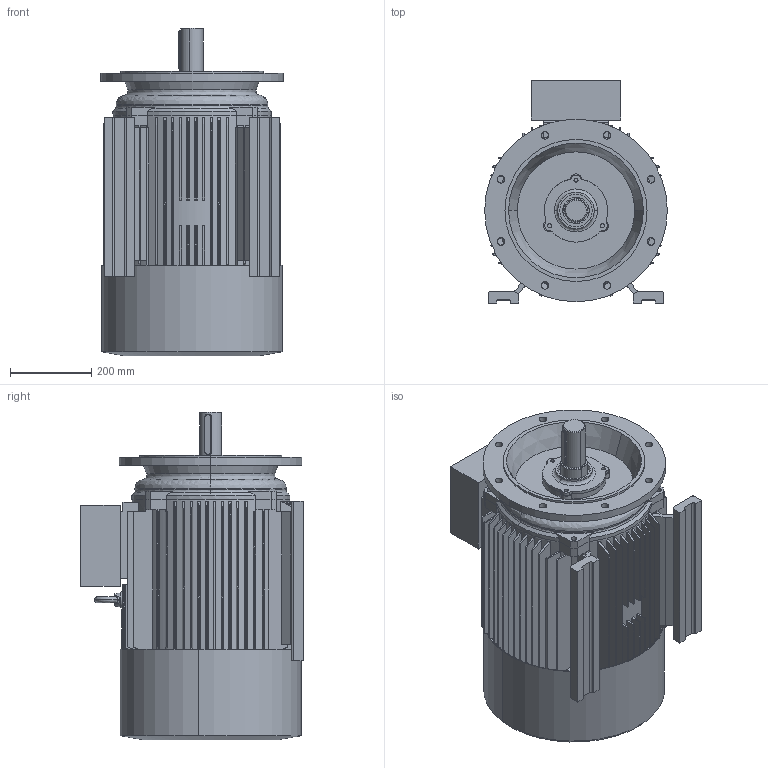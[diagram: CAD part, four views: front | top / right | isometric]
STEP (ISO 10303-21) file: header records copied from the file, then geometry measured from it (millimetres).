
FILE_DESCRIPTION (( 'STEP AP203' ), '1' );
FILE_NAME ('M3-225M-2p-FF-B35.STEP', '2019-07-08T14:05:17', ( '' ), ( '' ), 'SwSTEP 2.0', 'SolidWorks 2012', '' );
FILE_SCHEMA (( 'CONFIG_CONTROL_DESIGN' ));
Length unit declared in the file: millimetre
Products named in the file (10): Y2-225ﾀiﾍ_-ｼ+､; Y2-225MB3+ｷﾎｨ_-ｼ+､; Y2-200-4.6.8Ã¦Íß¦ð-Ô©Ã_-¼+¤; M3-225M-2p-FF-B35; 225-2ﾍﾟ+ｦｰ+ｳ_-ｼ+､; Plain parallel keys_GB_CONNECTING_PIECE_KEYS_CSK 16X100_1; 225M-2B35; 225-2ﾍﾟ+_-ｼ+､; Eyebolts GB_GB_FASTENER_SCREWS_FRS M16-N_3; 225-2-ｦﾈﾁ_-ｼ+､
Assembly tree (9 placements, depth 4):
  M3-225M-2p-FF-B35
    225M-2B35
      Y2-225MB3+ｷﾎｨ_-ｼ+､
      Y2-225ﾀiﾍ_-ｼ+､
      Y2-200-4.6.8Ã¦Íß¦ð-Ô©Ã_-¼+¤
      Eyebolts GB_GB_FASTENER_SCREWS_FRS M16-N_3
      225-2-ｦﾈﾁ_-ｼ+､
      225-2ﾍﾟ+ｦｰ+ｳ_-ｼ+､
        Plain parallel keys_GB_CONNECTING_PIECE_KEYS_CSK 16X100_1
        225-2ﾍﾟ+_-ｼ+､
Bounding box: 450 x 548 x 807.5 mm (x, y, z)
Volume: 20605115 mm3; surface area: 4087390.7 mm2
Topology: 8 solids, 8 shells, 814 faces, 2167 edges, 1425 vertices
Faces by surface type: plane 310, cylinder 282, cone 176, bspline 46
Entity records: 32513 total; most frequent: CARTESIAN_POINT 11473, ORIENTED_EDGE 4334, DIRECTION 3961, EDGE_CURVE 2167, AXIS2_PLACEMENT_3D 1481, VERTEX_POINT 1425, VECTOR 999, LINE 999
